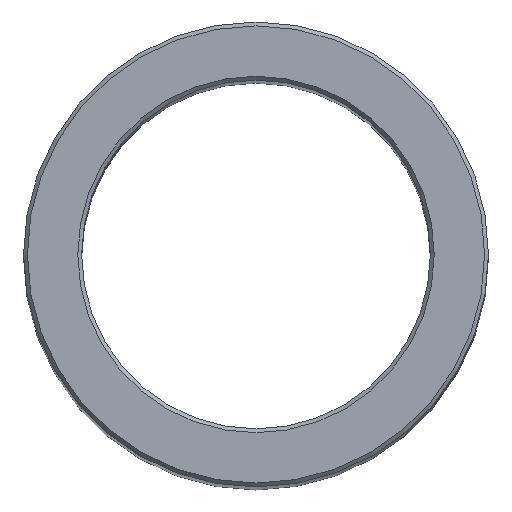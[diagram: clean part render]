
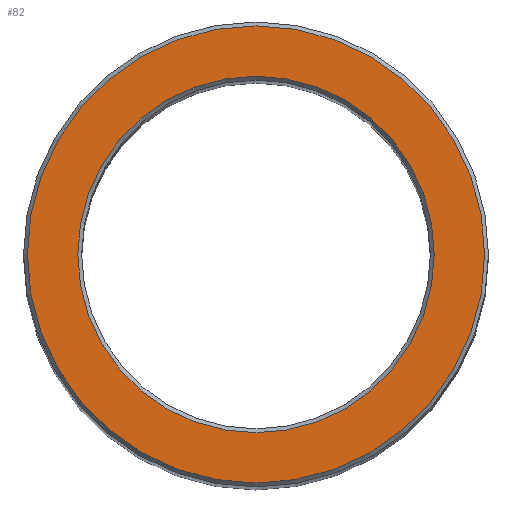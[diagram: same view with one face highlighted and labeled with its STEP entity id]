
A CAD part, top view. The second image highlights one B-rep face of the part: STEP entity #82.
In plain terms, the highlighted planar face has unit normal (0, 0, 1).
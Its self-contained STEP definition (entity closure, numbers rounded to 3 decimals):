
#82=ADVANCED_FACE('',(#105,#106),#107,.T.);
#105=FACE_OUTER_BOUND('',#129,.T.);
#106=FACE_BOUND('',#130,.T.);
#107=PLANE('',#131);
#129=EDGE_LOOP('',(#167));
#130=EDGE_LOOP('',(#168));
#131=AXIS2_PLACEMENT_3D('',#169,#170,#171);
#167=ORIENTED_EDGE('',*,*,#179,.T.);
#168=ORIENTED_EDGE('',*,*,#172,.T.);
#169=CARTESIAN_POINT('',(0.,0.0,90.0));
#170=DIRECTION('',(0.0,0.0,1.0));
#171=DIRECTION('',(1.0,0.0,0.0));
#172=EDGE_CURVE('',#180,#180,#181,.F.);
#179=EDGE_CURVE('',#194,#194,#195,.T.);
#180=VERTEX_POINT('',#196);
#181=CIRCLE('',#197,9.2);
#194=VERTEX_POINT('',#210);
#195=CIRCLE('',#211,11.8);
#196=CARTESIAN_POINT('',(9.2,0.,90.0));
#197=AXIS2_PLACEMENT_3D('',#212,#213,#214);
#210=CARTESIAN_POINT('',(11.8,0.0,90.0));
#211=AXIS2_PLACEMENT_3D('',#233,#234,#235);
#212=CARTESIAN_POINT('',(0.,0.0,90.0));
#213=DIRECTION('',(0.0,0.0,1.0));
#214=DIRECTION('',(1.0,0.0,0.0));
#233=CARTESIAN_POINT('',(0.,0.0,90.0));
#234=DIRECTION('',(0.0,0.0,1.0));
#235=DIRECTION('',(1.0,0.0,0.0));
